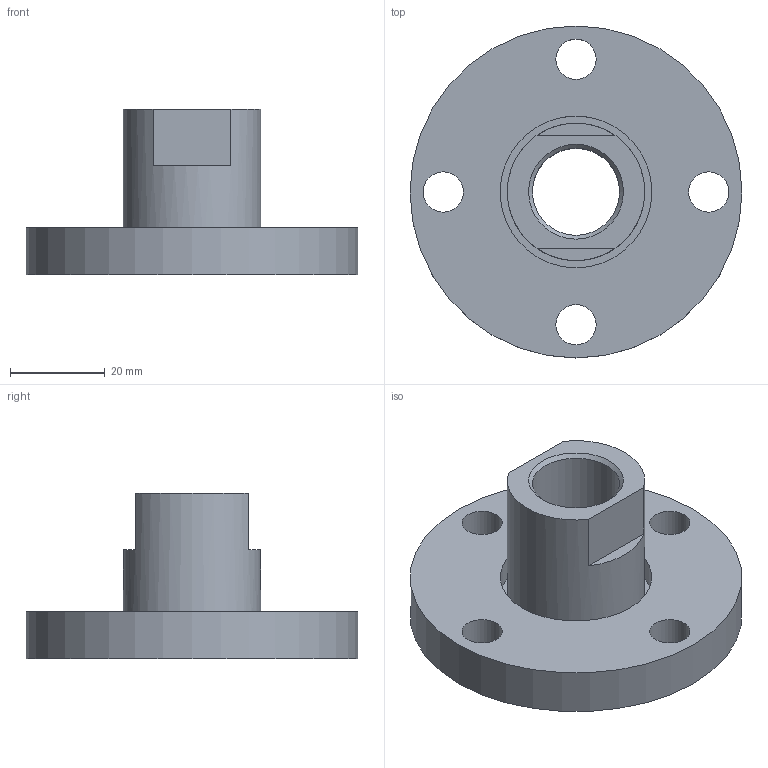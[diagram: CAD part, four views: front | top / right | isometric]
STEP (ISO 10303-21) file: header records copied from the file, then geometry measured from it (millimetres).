
FILE_DESCRIPTION( ( 'STEP AP214' ), '1' );
FILE_NAME( 'U:/Etudes/Top Solid/BIBLIO 3D AVM/TOP/PNEUMATIQUE/GUIDAGES/Accessoires/Accouplements/5133008.step', '2005-05-27T08:30:11', ( ' ' ), ( ' ' ), 'XStep 1.0', ' ', ' ' );
FILE_SCHEMA( ( 'automotive_design' ) );
Length unit declared in the file: metre
Products named in the file (1): 1
Bounding box: 70 x 70 x 35 mm (x, y, z)
Volume: 42024.2 mm3; surface area: 15184.7 mm2
Topology: 1 solids, 1 shells, 18 faces, 40 edges, 26 vertices
Faces by surface type: cylinder 9, plane 8, cone 1
Full cylindrical faces by diameter (mm): 8.5 x4, 18.376 x2, 29 x1, 32 x1, 70 x1
Entity records: 630 total; most frequent: DIRECTION 88, CARTESIAN_POINT 73, ORIENTED_EDGE 58, AXIS2_PLACEMENT_3D 40, EDGE_LOOP 40, EDGE_CURVE 29, FACE_OUTER_BOUND 27, VERTEX_POINT 25
